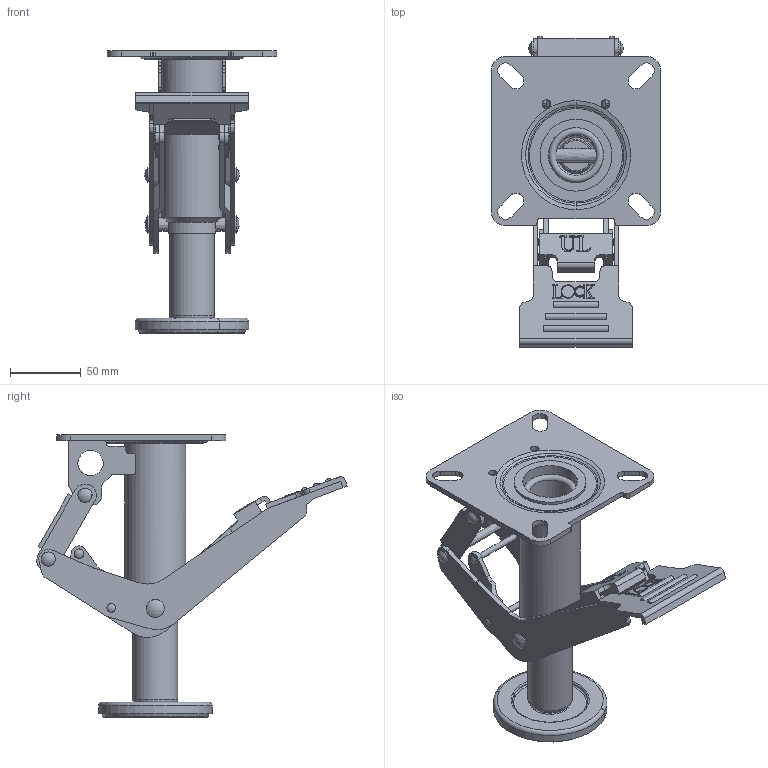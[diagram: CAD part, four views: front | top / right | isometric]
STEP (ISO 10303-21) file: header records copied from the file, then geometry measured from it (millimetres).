
FILE_DESCRIPTION( ( 'STEP AP214' ), '1' );
FILE_NAME( ' ', ' ', ( ' ' ), ( ' ' ), 'PSStep 10.0', ' ', ' ' );
FILE_SCHEMA( ( 'automotive_design' ) );
Length unit declared in the file: millimetre
Products named in the file (27): ITA _X2_306E7D50679C_X0_; ARM1 _X2_306E7D50679C_X0_.1; ARM1 _X2_306E7D50679C_X0_.2; DAI _X2_306E7D50679C_X0_; ENCHU2 _X2_306E7D50679C_X0_; ENCHU1 _X2_306E7D50679C_X0_; GOMU _X2_306E7D50679C_X0_; ARM3 _X2_306E7D50679C_X0_.1; ARM3 _X2_306E7D50679C_X0_.2; PEDARU2-1 _X2_306E7D50679C_X0_; TOMEGU_1 _X2_306E7D50679C_X0_.1; TOMEGU_1 _X2_306E7D50679C_X0_.2; TOMEGU_2 _X2_306E7D50679C_X0_.1; TOMEGU_2 _X2_306E7D50679C_X0_.2; BOU_1 _X2_306E7D50679C_X0_; @594; @596; @598; BOU_5 _X2_306E7D50679C_X0_; ANAITA _X2_306E7D50679C_X0_.1; ANAITA _X2_306E7D50679C_X0_.2; USUITA _X2_306E7D50679C_X0_; ANAITA_ITA _X2_306E7D50679C_X0_; @1433; @1452
Bounding box: 120 x 220.02 x 200 mm (x, y, z)
Volume: 289254.8 mm3; surface area: 246354.7 mm2
Topology: 27 solids, 27 shells, 645 faces, 1723 edges, 1165 vertices
Faces by surface type: plane 286, cylinder 183, bspline 66, torus 66, cone 30, sphere 14
Full cylindrical faces by diameter (mm): 6 x2, 6.1 x2, 18 x2, 25.4 x2, 28.8 x2, 31.8 x2, 33.8 x2, 39 x1, 43 x1, 51 x1
Entity records: 32724 total; most frequent: CARTESIAN_POINT 12068, ORIENTED_EDGE 3302, DIRECTION 2785, EDGE_CURVE 1651, VERTEX_POINT 1154, AXIS2_PLACEMENT_3D 1055, EDGE_LOOP 815, FACE_OUTER_BOUND 702
